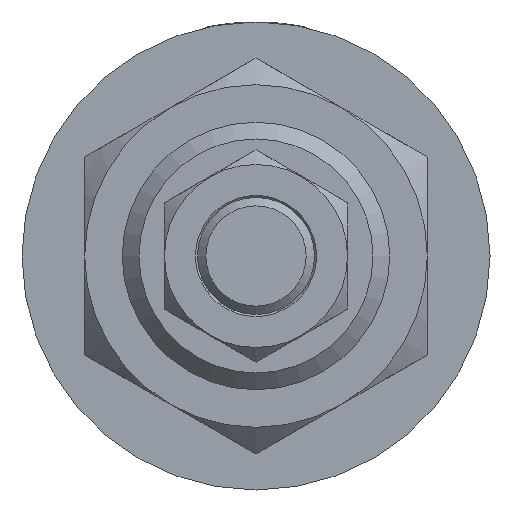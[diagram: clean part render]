
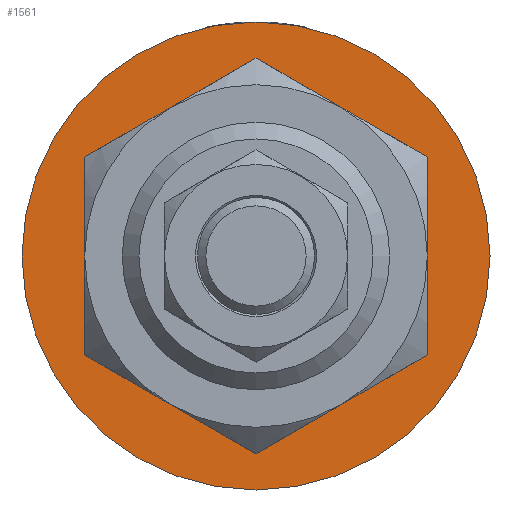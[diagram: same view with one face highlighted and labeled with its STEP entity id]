
A CAD part, front view. The second image highlights one B-rep face of the part: STEP entity #1561.
In plain terms, the highlighted planar face has unit normal (0, -1, 0).
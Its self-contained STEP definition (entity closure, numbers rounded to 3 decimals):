
#143=PLANE('',#1679);
#191=CIRCLE('',#1676,16.);
#193=CIRCLE('',#1680,28.);
#262=ORIENTED_EDGE('',*,*,#503,.T.);
#263=ORIENTED_EDGE('',*,*,#501,.T.);
#501=EDGE_CURVE('',#626,#626,#191,.F.);
#503=EDGE_CURVE('',#628,#628,#193,.T.);
#626=VERTEX_POINT('',#2184);
#628=VERTEX_POINT('',#2190);
#760=EDGE_LOOP('',(#262));
#761=EDGE_LOOP('',(#263));
#884=FACE_BOUND('',#760,.T.);
#885=FACE_BOUND('',#761,.T.);
#1561=ADVANCED_FACE('',(#884,#885),#143,.T.);
#1676=AXIS2_PLACEMENT_3D('',#2183,#1844,#1845);
#1679=AXIS2_PLACEMENT_3D('',#2188,#1850,#1851);
#1680=AXIS2_PLACEMENT_3D('',#2189,#1852,#1853);
#1844=DIRECTION('',(0.,-1.,0.));
#1845=DIRECTION('',(0.,0.,-1.));
#1850=DIRECTION('',(0.,-1.,0.));
#1851=DIRECTION('',(0.,0.,-1.));
#1852=DIRECTION('',(0.,-1.,0.));
#1853=DIRECTION('',(0.,0.,-1.));
#2183=CARTESIAN_POINT('',(0.,-22.,0.));
#2184=CARTESIAN_POINT('',(0.,-22.,-16.));
#2188=CARTESIAN_POINT('',(0.,-22.,0.));
#2189=CARTESIAN_POINT('',(0.,-22.,0.));
#2190=CARTESIAN_POINT('',(0.,-22.,-28.));
